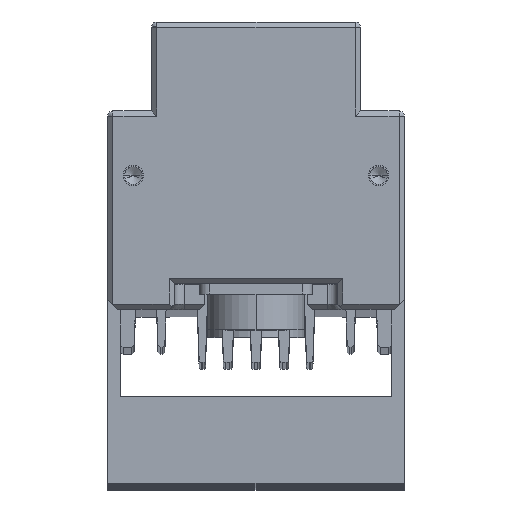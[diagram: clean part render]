
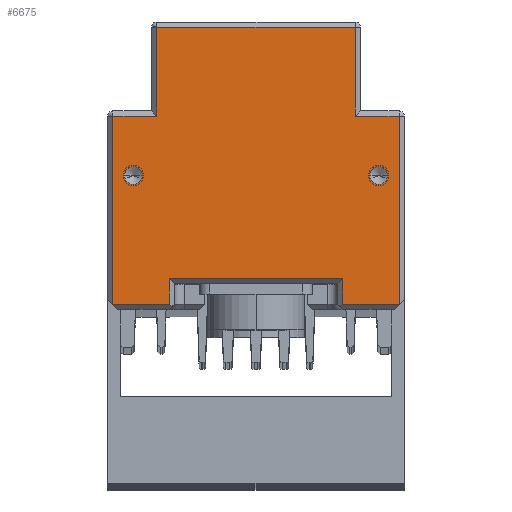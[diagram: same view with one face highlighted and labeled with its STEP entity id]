
A CAD part, top view. The second image highlights one B-rep face of the part: STEP entity #6675.
In plain terms, the highlighted planar face has unit normal (0, 0, 1).
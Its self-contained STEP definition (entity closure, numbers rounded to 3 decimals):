
#761=DIRECTION('',(1.,0.,0.));
#762=VECTOR('',#761,11.);
#763=CARTESIAN_POINT('',(-28.,-9.406,435.));
#764=LINE('',#763,#762);
#765=DIRECTION('',(0.,-1.,0.));
#766=VECTOR('',#765,36.8);
#767=CARTESIAN_POINT('',(-28.,27.394,435.));
#768=LINE('',#767,#766);
#769=DIRECTION('',(-1.,0.,0.));
#770=VECTOR('',#769,8.55);
#771=CARTESIAN_POINT('',(-19.45,27.394,435.));
#772=LINE('',#771,#770);
#773=DIRECTION('',(0.,-1.,0.));
#774=VECTOR('',#773,17.4);
#775=CARTESIAN_POINT('',(-19.45,44.794,435.));
#776=LINE('',#775,#774);
#777=DIRECTION('',(-1.,0.,0.));
#778=VECTOR('',#777,38.899);
#779=CARTESIAN_POINT('',(19.45,44.794,435.));
#780=LINE('',#779,#778);
#781=DIRECTION('',(0.,1.,0.));
#782=VECTOR('',#781,17.4);
#783=CARTESIAN_POINT('',(19.45,27.394,435.));
#784=LINE('',#783,#782);
#785=DIRECTION('',(-1.,0.,0.));
#786=VECTOR('',#785,8.55);
#787=CARTESIAN_POINT('',(28.,27.394,435.));
#788=LINE('',#787,#786);
#789=DIRECTION('',(0.,1.,0.));
#790=VECTOR('',#789,36.8);
#791=CARTESIAN_POINT('',(28.,-9.406,435.));
#792=LINE('',#791,#790);
#793=DIRECTION('',(1.,0.,0.));
#794=VECTOR('',#793,11.);
#795=CARTESIAN_POINT('',(17.,-9.406,435.));
#796=LINE('',#795,#794);
#797=DIRECTION('',(0.,-1.,0.));
#798=VECTOR('',#797,5.);
#799=CARTESIAN_POINT('',(17.,-4.406,435.));
#800=LINE('',#799,#798);
#801=DIRECTION('',(-1.,0.,0.));
#802=VECTOR('',#801,34.);
#803=CARTESIAN_POINT('',(17.,-4.406,435.));
#804=LINE('',#803,#802);
#805=DIRECTION('',(0.,1.,0.));
#806=VECTOR('',#805,5.);
#807=CARTESIAN_POINT('',(-17.,-9.406,435.));
#808=LINE('',#807,#806);
#809=CARTESIAN_POINT('',(24.,15.794,435.));
#810=DIRECTION('',(0.,0.,-1.));
#811=DIRECTION('',(1.,0.,0.));
#812=AXIS2_PLACEMENT_3D('',#809,#810,#811);
#814=CARTESIAN_POINT('',(24.,15.794,435.));
#815=DIRECTION('',(0.,0.,-1.));
#816=DIRECTION('',(-1.,0.,0.));
#817=AXIS2_PLACEMENT_3D('',#814,#815,#816);
#819=CARTESIAN_POINT('',(-24.,15.794,435.));
#820=DIRECTION('',(0.,0.,-1.));
#821=DIRECTION('',(1.,0.,0.));
#822=AXIS2_PLACEMENT_3D('',#819,#820,#821);
#824=CARTESIAN_POINT('',(-24.,15.794,435.));
#825=DIRECTION('',(0.,0.,-1.));
#826=DIRECTION('',(-1.,0.,0.));
#827=AXIS2_PLACEMENT_3D('',#824,#825,#826);
#4870=CARTESIAN_POINT('',(-28.,-9.406,435.));
#4871=CARTESIAN_POINT('',(-17.,-9.406,435.));
#4872=VERTEX_POINT('',#4870);
#4873=VERTEX_POINT('',#4871);
#4882=CARTESIAN_POINT('',(-28.,27.394,435.));
#4883=VERTEX_POINT('',#4882);
#4886=CARTESIAN_POINT('',(-19.45,27.394,435.));
#4887=VERTEX_POINT('',#4886);
#4890=CARTESIAN_POINT('',(19.45,27.394,435.));
#4891=CARTESIAN_POINT('',(19.45,44.794,435.));
#4892=VERTEX_POINT('',#4890);
#4893=VERTEX_POINT('',#4891);
#4900=CARTESIAN_POINT('',(-19.45,44.794,435.));
#4901=VERTEX_POINT('',#4900);
#4906=CARTESIAN_POINT('',(28.,-9.406,435.));
#4907=CARTESIAN_POINT('',(28.,27.394,435.));
#4908=VERTEX_POINT('',#4906);
#4909=VERTEX_POINT('',#4907);
#4920=CARTESIAN_POINT('',(17.,-9.406,435.));
#4921=VERTEX_POINT('',#4920);
#4942=CARTESIAN_POINT('',(17.,-4.406,435.));
#4943=VERTEX_POINT('',#4942);
#4944=CARTESIAN_POINT('',(-17.,-4.406,435.));
#4945=VERTEX_POINT('',#4944);
#5576=CARTESIAN_POINT('',(25.75,15.794,435.));
#5577=VERTEX_POINT('',#5576);
#5578=CARTESIAN_POINT('',(22.25,15.794,435.));
#5579=VERTEX_POINT('',#5578);
#5586=CARTESIAN_POINT('',(-22.25,15.794,435.));
#5587=VERTEX_POINT('',#5586);
#5588=CARTESIAN_POINT('',(-25.75,15.794,435.));
#5589=VERTEX_POINT('',#5588);
#6633=CARTESIAN_POINT('',(0.,0.,435.));
#6634=DIRECTION('',(0.,0.,1.));
#6635=DIRECTION('',(1.,0.,0.));
#6636=AXIS2_PLACEMENT_3D('',#6633,#6634,#6635);
#6637=PLANE('',#6636);
#6639=ORIENTED_EDGE('',*,*,#6638,.F.);
#6641=ORIENTED_EDGE('',*,*,#6640,.F.);
#6643=ORIENTED_EDGE('',*,*,#6642,.F.);
#6645=ORIENTED_EDGE('',*,*,#6644,.F.);
#6647=ORIENTED_EDGE('',*,*,#6646,.F.);
#6649=ORIENTED_EDGE('',*,*,#6648,.F.);
#6651=ORIENTED_EDGE('',*,*,#6650,.F.);
#6653=ORIENTED_EDGE('',*,*,#6652,.F.);
#6655=ORIENTED_EDGE('',*,*,#6654,.F.);
#6657=ORIENTED_EDGE('',*,*,#6656,.F.);
#6659=ORIENTED_EDGE('',*,*,#6658,.T.);
#6660=ORIENTED_EDGE('',*,*,#6622,.F.);
#6661=EDGE_LOOP('',(#6639,#6641,#6643,#6645,#6647,#6649,#6651,#6653,#6655,#6657,
#6659,#6660));
#6662=FACE_OUTER_BOUND('',#6661,.F.);
#6664=ORIENTED_EDGE('',*,*,#6663,.F.);
#6666=ORIENTED_EDGE('',*,*,#6665,.F.);
#6667=EDGE_LOOP('',(#6664,#6666));
#6668=FACE_BOUND('',#6667,.F.);
#6670=ORIENTED_EDGE('',*,*,#6669,.F.);
#6672=ORIENTED_EDGE('',*,*,#6671,.F.);
#6673=EDGE_LOOP('',(#6670,#6672));
#6674=FACE_BOUND('',#6673,.F.);
#813=CIRCLE('',#812,1.75);
#818=CIRCLE('',#817,1.75);
#823=CIRCLE('',#822,1.75);
#828=CIRCLE('',#827,1.75);
#6622=EDGE_CURVE('',#4873,#4945,#808,.T.);
#6638=EDGE_CURVE('',#4872,#4873,#764,.T.);
#6640=EDGE_CURVE('',#4883,#4872,#768,.T.);
#6642=EDGE_CURVE('',#4887,#4883,#772,.T.);
#6644=EDGE_CURVE('',#4901,#4887,#776,.T.);
#6646=EDGE_CURVE('',#4893,#4901,#780,.T.);
#6648=EDGE_CURVE('',#4892,#4893,#784,.T.);
#6650=EDGE_CURVE('',#4909,#4892,#788,.T.);
#6652=EDGE_CURVE('',#4908,#4909,#792,.T.);
#6654=EDGE_CURVE('',#4921,#4908,#796,.T.);
#6656=EDGE_CURVE('',#4943,#4921,#800,.T.);
#6658=EDGE_CURVE('',#4943,#4945,#804,.T.);
#6663=EDGE_CURVE('',#5577,#5579,#813,.T.);
#6665=EDGE_CURVE('',#5579,#5577,#818,.T.);
#6669=EDGE_CURVE('',#5587,#5589,#823,.T.);
#6671=EDGE_CURVE('',#5589,#5587,#828,.T.);
#6675=ADVANCED_FACE('',(#6662,#6668,#6674),#6637,.T.);
